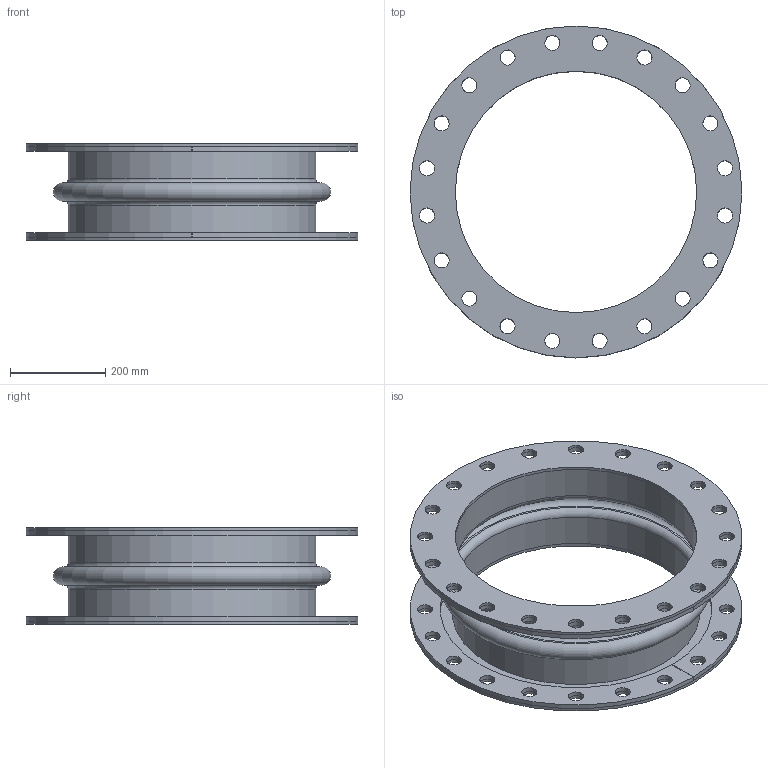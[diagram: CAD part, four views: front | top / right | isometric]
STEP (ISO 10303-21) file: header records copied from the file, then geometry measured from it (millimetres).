
FILE_DESCRIPTION(/* description */ (''),/* implementation_level */ '2;1');
FILE_NAME(/* name */ '20x8.stp',/* time_stamp */ '2026-07-21T16:20:53-05:00',/* author */ ('linda'),/* organization */ (''),/* preprocessor_version */ 'ST-DEVELOPER v20.1',/* originating_system */ 'Autodesk Inventor 2026',/* authorisation */ '');
FILE_SCHEMA (('AUTOMOTIVE_DESIGN { 1 0 10303 214 3 1 1 }'));
Length unit declared in the file: inch
Products named in the file (1): Part16
Bounding box: 698.5 x 698.5 x 203.2 mm (x, y, z)
Volume: 6627463 mm3; surface area: 2037645.4 mm2
Topology: 5 solids, 5 shells, 126 faces, 330 edges, 220 vertices
Faces by surface type: cylinder 96, plane 24, torus 6
Full cylindrical faces by diameter (mm): 31.75 x80, 508 x4, 520.7 x2, 698.5 x2
Entity records: 4513 total; most frequent: DIRECTION 794, CARTESIAN_POINT 677, ORIENTED_EDGE 660, AXIS2_PLACEMENT_3D 337, EDGE_CURVE 330, EDGE_LOOP 294, VERTEX_POINT 220, CIRCLE 210
